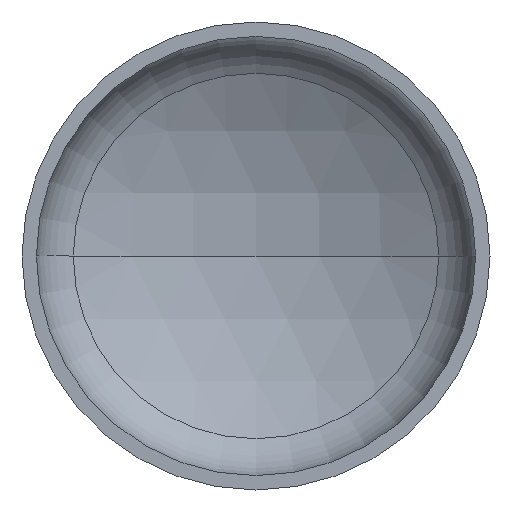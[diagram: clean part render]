
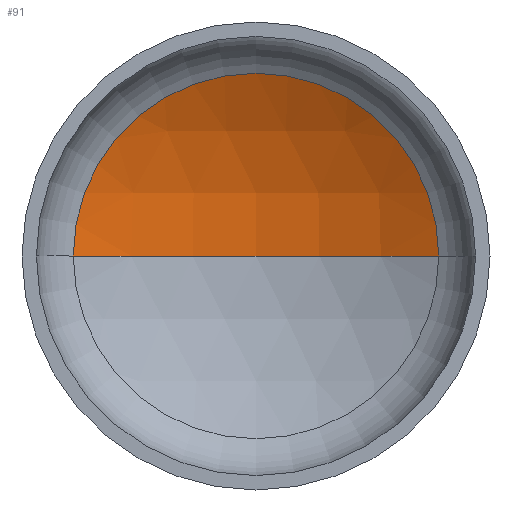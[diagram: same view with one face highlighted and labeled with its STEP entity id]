
A CAD part, front view. The second image highlights one B-rep face of the part: STEP entity #91.
In plain terms, the highlighted spherical face has radius 2080 mm.
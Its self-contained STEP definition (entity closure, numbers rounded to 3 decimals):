
#6 = AXIS2_PLACEMENT_3D ( 'NONE', #337, #313, #135 ) ;
#9 = AXIS2_PLACEMENT_3D ( 'NONE', #123, #133, #196 ) ;
#21 = AXIS2_PLACEMENT_3D ( 'NONE', #148, #301, #197 ) ;
#24 = AXIS2_PLACEMENT_3D ( 'NONE', #151, #152, #368 ) ;
#48 = CARTESIAN_POINT ( 'NONE',  ( -1015.238, 469.116, 0. ) ) ;
#64 = EDGE_CURVE ( 'NONE', #394, #283, #136, .T. ) ;
#91 = ADVANCED_FACE ( 'NONE', ( #281 ), #356, .F. ) ;
#103 = CIRCLE ( 'NONE', #9, 2080. ) ;
#123 = CARTESIAN_POINT ( 'NONE',  ( 0., -1346.288, 0. ) ) ;
#133 = DIRECTION ( 'NONE',  ( 0., 0., 1. ) ) ;
#135 = DIRECTION ( 'NONE',  ( -1., 0., 0. ) ) ;
#136 = CIRCLE ( 'NONE', #24, 1015.238 ) ;
#148 = CARTESIAN_POINT ( 'NONE',  ( 0., -1346.288, 0. ) ) ;
#151 = CARTESIAN_POINT ( 'NONE',  ( 0., 469.116, 0. ) ) ;
#152 = DIRECTION ( 'NONE',  ( 0., -1., 0. ) ) ;
#183 = EDGE_LOOP ( 'NONE', ( #278, #344, #367 ) ) ;
#196 = DIRECTION ( 'NONE',  ( 1., 0., 0. ) ) ;
#197 = DIRECTION ( 'NONE',  ( -1., 0., 0. ) ) ;
#227 = CARTESIAN_POINT ( 'NONE',  ( 1015.238, 469.116, 0. ) ) ;
#278 = ORIENTED_EDGE ( 'NONE', *, *, #330, .F. ) ;
#281 = FACE_OUTER_BOUND ( 'NONE', #183, .T. ) ;
#283 = VERTEX_POINT ( 'NONE', #48 ) ;
#301 = DIRECTION ( 'NONE',  ( 0., 0., -1. ) ) ;
#302 = VERTEX_POINT ( 'NONE', #391 ) ;
#313 = DIRECTION ( 'NONE',  ( 0., 0., -1. ) ) ;
#327 = EDGE_CURVE ( 'NONE', #302, #394, #389, .T. ) ;
#330 = EDGE_CURVE ( 'NONE', #302, #283, #103, .T. ) ;
#337 = CARTESIAN_POINT ( 'NONE',  ( 0., -1346.288, 0. ) ) ;
#344 = ORIENTED_EDGE ( 'NONE', *, *, #327, .T. ) ;
#356 = SPHERICAL_SURFACE ( 'NONE', #21, 2080. ) ;
#367 = ORIENTED_EDGE ( 'NONE', *, *, #64, .T. ) ;
#368 = DIRECTION ( 'NONE',  ( 1., 0., 0. ) ) ;
#389 = CIRCLE ( 'NONE', #6, 2080. ) ;
#391 = CARTESIAN_POINT ( 'NONE',  ( 0., 733.712, 0. ) ) ;
#394 = VERTEX_POINT ( 'NONE', #227 ) ;
